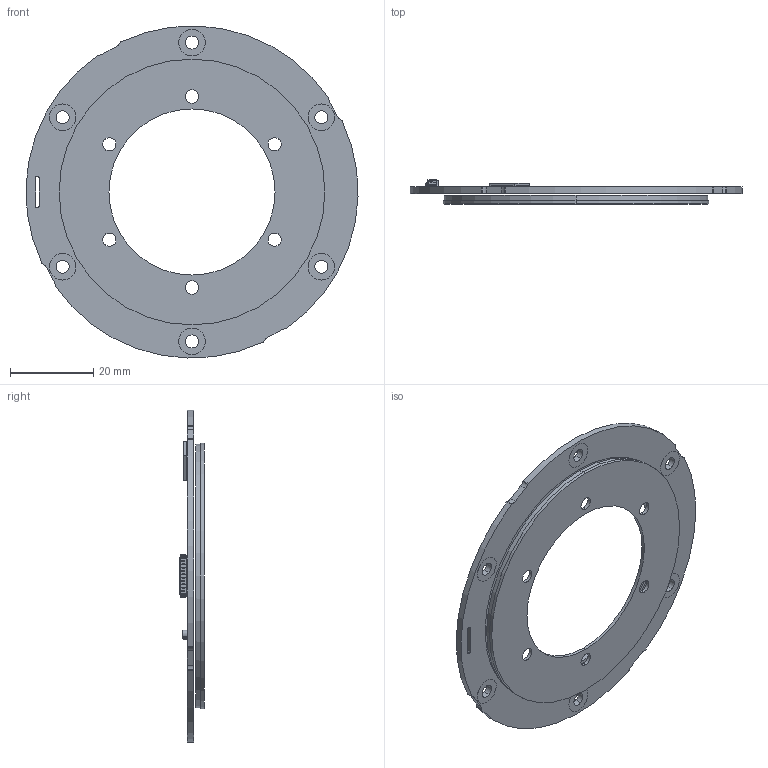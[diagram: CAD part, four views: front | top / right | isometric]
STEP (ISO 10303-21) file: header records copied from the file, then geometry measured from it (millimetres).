
FILE_DESCRIPTION (( 'STEP AP214' ), '1' );
FILE_NAME ('IND-ROT-080-A21_rev01.STEP', '2023-11-07T18:01:10', ( '' ), ( '' ), 'SwSTEP 2.0', 'SolidWorks 2021', '' );
FILE_SCHEMA (( 'AUTOMOTIVE_DESIGN' ));
Length unit declared in the file: millimetre
Products named in the file (1): IND-ROT-080-A21_rev01
Bounding box: 79.97 x 5.82 x 79.97 mm (x, y, z)
Volume: 7473.4 mm3; surface area: 13496.4 mm2
Topology: 17 solids, 17 shells, 1829 faces, 4778 edges, 2877 vertices
Faces by surface type: plane 817, cylinder 713, bspline 299
Entity records: 78166 total; most frequent: CARTESIAN_POINT 14895, ORIENTED_EDGE 9334, DIRECTION 8538, EDGE_CURVE 4667, LINE 2986, VECTOR 2986, VERTEX_POINT 2877, AXIS2_PLACEMENT_3D 2776
